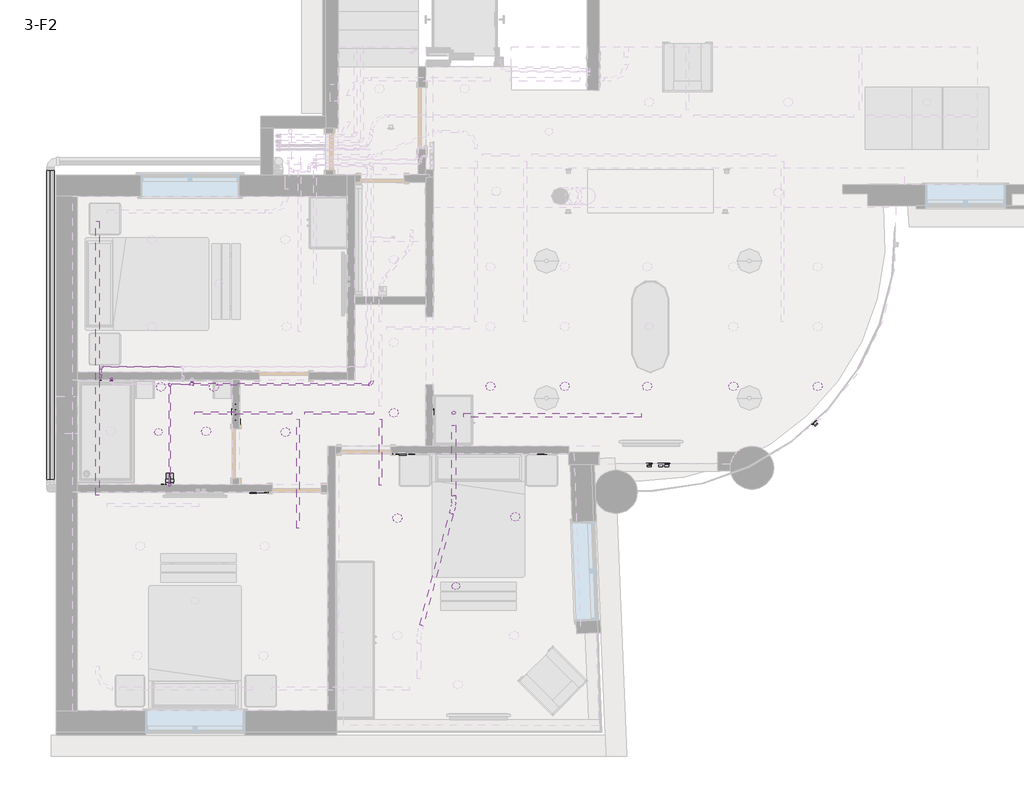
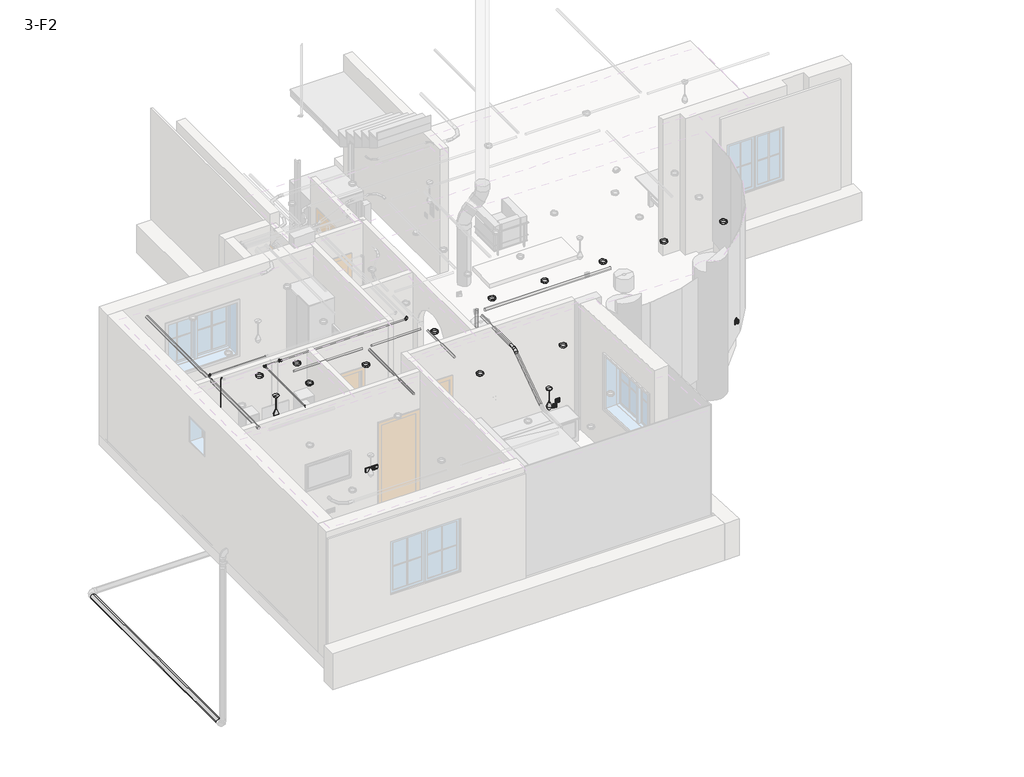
# One storey, part 6 of 12: 14 light fixtures, 12 pipe fittings, 12 pipe segments, 9 cable carrier segments, 8 proxies, 8 switching devices, 3 electric appliances, 1 cable carrier fitting.
"""IFC4 building model written with IfcOpenShell, lengths in millimetres."""

from ifc_helpers import new_model, si_unit, point, frame, frame_2d, origin, place, context, project, spatial, circle_curve, trimmed, segment, composite_curve, outline, extrude, transform, mapped, element, save
from ifc_brep_helpers import plane_surface, cylinder_surface, advanced_brep
from components import m_thermostat_standard_b920d14f, wall_mounted_socket_ups_wall_mounted_socket_ups_4524048d, m_conduit_elbow_aluminum_standard_1407c279, wall_mounted_data_socket_wall_mounted_data_socket_ap_474314e8, m_downlight_recessed_can_152mm_incandescent_120v_1ee42939, m_pendant_lamp_art_glass_led_standard_2036dae1, m_bend_pvc_sch_40_dwv_standard_1fb0f857, m_bend_pvc_sch_40_dwv_standard_738aab8b, m_bend_pvc_sch_40_dwv_standard_b153bf5a, m_bend_pvc_sch_40_dwv_standard_42e46e6b, m_tee_reducing_sanitary_pvc_sch_40_dwv_standard_53539b48, m_tee_reducing_sanitary_pvc_sch_40_dwv_standard_3942c6c6, switching_device_8f59fbb7, switching_device_ab05ab5c

model = new_model("IFC4")

# Units and contexts
model_context = context("Model", 3, world=origin())
ifc_project = project(units=[si_unit("LENGTHUNIT", "METRE", prefix="MILLI")], contexts=[model_context])

# Site, building, storey
site = spatial("IfcSite", under=ifc_project)
building = spatial("IfcBuilding", under=site)
storey = spatial("IfcBuildingStorey", under=building, Name="3-F2", Elevation=6550.0)

# Proxies
placement = place(None, origin())
m_thermostat_standard_shape = m_thermostat_standard_b920d14f(model_context)
element("IfcBuildingElementProxy", 1, Name="M_Thermostat : Standard", ObjectType="M_Thermostat : Standard", at=placement, inside=storey, context=model_context, shape_type="MappedRepresentation", body=[
    mapped(m_thermostat_standard_shape, transform((-6229.7814219, -1799.8724951, 7750.0), x_axis=(1.0, 0.0, 0.0), y_axis=(0.0, 0.0, 1.0), z_axis=(0.0, -1.0, 0.0))),
])
element("IfcBuildingElementProxy", 2, Name="M_Thermostat : Standard", ObjectType="M_Thermostat : Standard", at=placement, inside=storey, context=model_context, shape_type="MappedRepresentation", body=[
    mapped(m_thermostat_standard_shape, transform((-3811.7631263, -1185.6632352, 7750.0), x_axis=(1.0, 0.0, 0.0), y_axis=(0.0, 0.0, 1.0), z_axis=(0.0, -1.0, 0.0))),
])
wall_mounted_socket_ups_wall_mounted_socket_ups_shape = wall_mounted_socket_ups_wall_mounted_socket_ups_4524048d(model_context)
element("IfcBuildingElementProxy", 3, Name="WALL MOUNTED SOCKET UPS : WALL MOUNTED SOCKET UPS", ObjectType="WALL MOUNTED SOCKET UPS : WALL MOUNTED SOCKET UPS", at=placement, inside=storey, context=model_context, shape_type="MappedRepresentation", body=[
    mapped(wall_mounted_socket_ups_wall_mounted_socket_ups_shape, transform((-9147.4765921, 418.2189843, 7350.0), x_axis=(0.0, 1.0, 0.0), y_axis=(0.0, 0.0, 1.0), z_axis=(1.0, 0.0, 0.0))),
])
element("IfcBuildingElementProxy", 4, Name="WALL MOUNTED SOCKET UPS : WALL MOUNTED SOCKET UPS", ObjectType="WALL MOUNTED SOCKET UPS : WALL MOUNTED SOCKET UPS", at=placement, inside=storey, context=model_context, shape_type="MappedRepresentation", body=[
    mapped(wall_mounted_socket_ups_wall_mounted_socket_ups_shape, transform((2852.8377747, -681.9672351, 7430.0), x_axis=(-0.7396589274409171, -0.6729819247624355, 0.0), y_axis=(0.0, 0.0, 1.0000000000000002), z_axis=(-0.6729819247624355, 0.7396589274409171, 0.0))),
])
element("IfcBuildingElementProxy", 5, Name="WALL MOUNTED SOCKET UPS : WALL MOUNTED SOCKET UPS", ObjectType="WALL MOUNTED SOCKET UPS : WALL MOUNTED SOCKET UPS", at=placement, inside=storey, context=model_context, shape_type="MappedRepresentation", body=[
    mapped(wall_mounted_socket_ups_wall_mounted_socket_ups_shape, transform((-3662.3482991, -1177.1632352, 7350.0), x_axis=(1.0, 0.0, 0.0), y_axis=(0.0, 0.0, 1.0), z_axis=(0.0, -1.0, 0.0))),
])
element("IfcBuildingElementProxy", 6, Name="WALL MOUNTED SOCKET UPS : WALL MOUNTED SOCKET UPS", ObjectType="WALL MOUNTED SOCKET UPS : WALL MOUNTED SOCKET UPS", at=placement, inside=storey, context=model_context, shape_type="MappedRepresentation", body=[
    mapped(wall_mounted_socket_ups_wall_mounted_socket_ups_shape, transform((-1527.3482991, -1177.1632352, 7350.0), x_axis=(1.0, 0.0, 0.0), y_axis=(0.0, 0.0, 1.0), z_axis=(0.0, -1.0, 0.0))),
])
element("IfcBuildingElementProxy", 7, Name="WALL MOUNTED SOCKET UPS : WALL MOUNTED SOCKET UPS", ObjectType="WALL MOUNTED SOCKET UPS : WALL MOUNTED SOCKET UPS", at=placement, inside=storey, context=model_context, shape_type="MappedRepresentation", body=[
    mapped(wall_mounted_socket_ups_wall_mounted_socket_ups_shape, transform((-3317.6151583, -499.8724952, 7000.0), x_axis=(0.0, 1.0, 0.0), y_axis=(0.0, 0.0, 1.0), z_axis=(1.0, 0.0, 0.0))),
])
element("IfcBuildingElementProxy", 8, Name="WALL MOUNTED SOCKET UPS : WALL MOUNTED SOCKET UPS", ObjectType="WALL MOUNTED SOCKET UPS : WALL MOUNTED SOCKET UPS", at=placement, inside=storey, context=model_context, shape_type="MappedRepresentation", body=[
    mapped(wall_mounted_socket_ups_wall_mounted_socket_ups_shape, transform((178.5234079, -1340.2773764, 7000.0), x_axis=(-1.0, 0.0, 0.0), y_axis=(0.0, 0.0, 1.0), z_axis=(0.0, 1.0, 0.0))),
])

# Cable carrier fitting
m_conduit_elbow_aluminum_standard_shape = m_conduit_elbow_aluminum_standard_1407c279(model_context)
element("IfcCableCarrierFitting", 9, ObjectType="M_Conduit Elbow - Aluminum : Standard", at=placement, inside=storey, context=model_context, shape_type="MappedRepresentation", body=[
    mapped(m_conduit_elbow_aluminum_standard_shape, transform((-2985.4457195, -2009.1020984, 9619.835), x_axis=(0.2588190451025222, 0.965925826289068, 0.0), y_axis=(-0.965925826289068, 0.2588190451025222, 0.0), z_axis=(0.0, 0.0, 1.0))),
])

# Cable carrier segments
element("IfcCableCarrierSegment", 10, ObjectType="Power", at=placement, inside=storey, context=model_context, shape_type="SweptSolid", body=[
    extrude(outline(composite_curve([segment(trimmed(circle_curve(frame_2d((9619.835, -2985.4457195)), 30.165), [point((9619.835, -3015.6107195))], [point((9589.67, -2985.4457195))], False, "CARTESIAN"), True, "CONTINUOUS"), segment(trimmed(circle_curve(frame_2d((9619.835, -2985.4457195)), 30.165), [point((9589.67, -2985.4457195))], [point((9619.835, -2955.2807195))], False, "CARTESIAN"), True, "CONTINUOUS"), segment(trimmed(circle_curve(frame_2d((9619.835, -2985.4457195)), 30.165), [point((9619.835, -2955.2807195))], [point((9650.0, -2985.4457195))], False, "CARTESIAN"), True, "CONTINUOUS"), segment(trimmed(circle_curve(frame_2d((9619.835, -2985.4457195)), 30.165), [point((9650.0, -2985.4457195))], [point((9619.835, -3015.6107195))], False, "CARTESIAN"), True, "CONTINUOUS")], self_intersect=False)), frame((0.0, -1863.0343507, 0.0), z_axis=(0.0, 1.0, 0.0), x_axis=(0.0, 0.0, 1.0)), (0.0, 0.0, 1.0), 1146.3372428),
])
element("IfcCableCarrierSegment", 11, ObjectType="Power", at=placement, inside=storey, context=model_context, shape_type="SweptSolid", body=[
    extrude(outline(composite_curve([segment(trimmed(circle_curve(frame_2d((-557.6971079, 9619.835)), 30.165), [point((-587.8621079, 9619.835))], [point((-557.6971079, 9650.0))], False, "CARTESIAN"), True, "CONTINUOUS"), segment(trimmed(circle_curve(frame_2d((-557.6971079, 9619.835)), 30.165), [point((-557.6971079, 9650.0))], [point((-527.5321079, 9619.835))], False, "CARTESIAN"), True, "CONTINUOUS"), segment(trimmed(circle_curve(frame_2d((-557.6971079, 9619.835)), 30.165), [point((-527.5321079, 9619.835))], [point((-557.6971079, 9589.67))], False, "CARTESIAN"), True, "CONTINUOUS"), segment(trimmed(circle_curve(frame_2d((-557.6971079, 9619.835)), 30.165), [point((-557.6971079, 9589.67))], [point((-587.8621079, 9619.835))], False, "CARTESIAN"), True, "CONTINUOUS")], self_intersect=False)), frame((-2826.4457195, 0.0, 0.0), z_axis=(1.0, 0.0, 0.0), x_axis=(0.0, 1.0, 0.0)), (0.0, 0.0, 1.0), 2877.6250132),
])
element("IfcCableCarrierSegment", 12, ObjectType="Power", at=placement, inside=storey, context=model_context, shape_type="SweptSolid", body=[
    extrude(outline(composite_curve([segment(trimmed(circle_curve(frame_2d((9619.835, -8749.7814219)), 30.165), [point((9619.835, -8779.9464219))], [point((9589.67, -8749.7814219))], False, "CARTESIAN"), True, "CONTINUOUS"), segment(trimmed(circle_curve(frame_2d((9619.835, -8749.7814219)), 30.165), [point((9589.67, -8749.7814219))], [point((9619.835, -8719.6164219))], False, "CARTESIAN"), True, "CONTINUOUS"), segment(trimmed(circle_curve(frame_2d((9619.835, -8749.7814219)), 30.165), [point((9619.835, -8719.6164219))], [point((9650.0, -8749.7814219))], False, "CARTESIAN"), True, "CONTINUOUS"), segment(trimmed(circle_curve(frame_2d((9619.835, -8749.7814219)), 30.165), [point((9650.0, -8749.7814219))], [point((9619.835, -8779.9464219))], False, "CARTESIAN"), True, "CONTINUOUS")], self_intersect=False)), frame((0.0, -1850.1020984, 0.0), z_axis=(0.0, 1.0, 0.0), x_axis=(0.0, 0.0, 1.0)), (0.0, 0.0, 1.0), 4431.531237),
])
element("IfcCableCarrierSegment", 13, ObjectType="Power", at=placement, inside=storey, context=model_context, shape_type="SweptSolid", body=[
    extrude(outline(composite_curve([segment(trimmed(circle_curve(frame_2d((0.0, -30.165)), 30.165), [point((-30.165, -30.1648598))], [point((0.0001403, 0.0))], False, "CARTESIAN"), True, "CONTINUOUS"), segment(trimmed(circle_curve(frame_2d((0.0, -30.165)), 30.165), [point((0.0001403, 0.0))], [point((30.165, -30.1651402))], False, "CARTESIAN"), True, "CONTINUOUS"), segment(trimmed(circle_curve(frame_2d((0.0, -30.165)), 30.165), [point((30.165, -30.1651402))], [point((-0.0001402, -60.33))], False, "CARTESIAN"), True, "CONTINUOUS"), segment(trimmed(circle_curve(frame_2d((0.0, -30.165)), 30.165), [point((-0.0001402, -60.33))], [point((-30.165, -30.1648598))], False, "CARTESIAN"), True, "CONTINUOUS")], self_intersect=False)), frame((-3507.6406046, -3957.959399, 9589.6375339), z_axis=(0.2588190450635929, 0.9659258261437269, 1.734729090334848e-05), x_axis=(0.9659258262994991, -0.2588190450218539, -4.64819258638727e-06)), (0.0, 0.0, 1.0), 1871.5383558),
])
element("IfcCableCarrierSegment", 14, ObjectType="Power", at=placement, inside=storey, context=model_context, shape_type="SweptSolid", body=[
    extrude(outline(composite_curve([segment(trimmed(circle_curve(frame_2d((-518.5178652, 9630.825)), 21.08), [point((-497.4378652, 9630.825))], [point((-518.5178652, 9609.745))], False, "CARTESIAN"), True, "CONTINUOUS"), segment(trimmed(circle_curve(frame_2d((-518.5178652, 9630.825)), 21.08), [point((-518.5178652, 9609.745))], [point((-539.5978652, 9630.825))], False, "CARTESIAN"), True, "CONTINUOUS"), segment(trimmed(circle_curve(frame_2d((-518.5178652, 9630.825)), 21.08), [point((-539.5978652, 9630.825))], [point((-518.5178652, 9651.905))], False, "CARTESIAN"), True, "CONTINUOUS"), segment(trimmed(circle_curve(frame_2d((-518.5178652, 9630.825)), 21.08), [point((-518.5178652, 9651.905))], [point((-497.4378652, 9630.825))], False, "CARTESIAN"), True, "CONTINUOUS")], self_intersect=False)), frame((-7176.5261339, 0.0, 0.0), z_axis=(1.0, 0.0, 0.0), x_axis=(0.0, 1.0, 0.0)), (0.0, 0.0, 1.0), 1566.0804143),
])
element("IfcCableCarrierSegment", 15, ObjectType="Power", at=placement, inside=storey, context=model_context, shape_type="SweptSolid", body=[
    extrude(outline(composite_curve([segment(trimmed(circle_curve(frame_2d((-518.5178652, 9630.825)), 21.08), [point((-539.5978652, 9630.825))], [point((-518.5178652, 9651.905))], False, "CARTESIAN"), True, "CONTINUOUS"), segment(trimmed(circle_curve(frame_2d((-518.5178652, 9630.825)), 21.08), [point((-518.5178652, 9651.905))], [point((-497.4378652, 9630.825))], False, "CARTESIAN"), True, "CONTINUOUS"), segment(trimmed(circle_curve(frame_2d((-518.5178652, 9630.825)), 21.08), [point((-497.4378652, 9630.825))], [point((-518.5178652, 9609.745))], False, "CARTESIAN"), True, "CONTINUOUS"), segment(trimmed(circle_curve(frame_2d((-518.5178652, 9630.825)), 21.08), [point((-518.5178652, 9609.745))], [point((-539.5978652, 9630.825))], False, "CARTESIAN"), True, "CONTINUOUS")], self_intersect=False)), frame((-5400.4457195, 0.0, 0.0), z_axis=(1.0, 0.0, 0.0), x_axis=(0.0, 1.0, 0.0)), (0.0, 0.0, 1.0), 1123.9195857),
])
element("IfcCableCarrierSegment", 16, ObjectType="Power", at=placement, inside=storey, context=model_context, shape_type="SweptSolid", body=[
    extrude(outline(composite_curve([segment(trimmed(circle_curve(frame_2d((9630.825, -4171.5261339)), 21.08), [point((9630.825, -4192.6061339))], [point((9609.745, -4171.5261339))], False, "CARTESIAN"), True, "CONTINUOUS"), segment(trimmed(circle_curve(frame_2d((9630.825, -4171.5261339)), 21.08), [point((9609.745, -4171.5261339))], [point((9630.825, -4150.4461339))], False, "CARTESIAN"), True, "CONTINUOUS"), segment(trimmed(circle_curve(frame_2d((9630.825, -4171.5261339)), 21.08), [point((9630.825, -4150.4461339))], [point((9651.905, -4171.5261339))], False, "CARTESIAN"), True, "CONTINUOUS"), segment(trimmed(circle_curve(frame_2d((9630.825, -4171.5261339)), 21.08), [point((9651.905, -4171.5261339))], [point((9630.825, -4192.6061339))], False, "CARTESIAN"), True, "CONTINUOUS")], self_intersect=False)), frame((0.0, -1694.8724951, 0.0), z_axis=(0.0, 1.0, 0.0), x_axis=(0.0, 0.0, 1.0)), (0.0, 0.0, 1.0), 1071.3546299),
])
element("IfcCableCarrierSegment", 17, ObjectType="Power", at=placement, inside=storey, context=model_context, shape_type="SweptSolid", body=[
    extrude(outline(composite_curve([segment(trimmed(circle_curve(frame_2d((9630.825, -5505.4457195)), 21.08), [point((9630.825, -5526.5257195))], [point((9609.745, -5505.4457195))], False, "CARTESIAN"), True, "CONTINUOUS"), segment(trimmed(circle_curve(frame_2d((9630.825, -5505.4457195)), 21.08), [point((9609.745, -5505.4457195))], [point((9630.825, -5484.3657195))], False, "CARTESIAN"), True, "CONTINUOUS"), segment(trimmed(circle_curve(frame_2d((9630.825, -5505.4457195)), 21.08), [point((9630.825, -5484.3657195))], [point((9651.905, -5505.4457195))], False, "CARTESIAN"), True, "CONTINUOUS"), segment(trimmed(circle_curve(frame_2d((9630.825, -5505.4457195)), 21.08), [point((9651.905, -5505.4457195))], [point((9630.825, -5526.5257195))], False, "CARTESIAN"), True, "CONTINUOUS")], self_intersect=False)), frame((0.0, -2387.4545156, 0.0), z_axis=(0.0, 1.0, 0.0), x_axis=(0.0, 0.0, 1.0)), (0.0, 0.0, 1.0), 1763.9366504),
])
element("IfcCableCarrierSegment", 18, ObjectType="Power", at=placement, inside=storey, context=model_context, shape_type="SweptSolid", body=[
    extrude(outline(composite_curve([segment(trimmed(circle_curve(frame_2d((-2985.4457195, -518.5178652)), 30.165), [point((-2955.2807195, -518.5178652))], [point((-2985.4457195, -548.6828652))], False, "CARTESIAN"), True, "CONTINUOUS"), segment(trimmed(circle_curve(frame_2d((-2985.4457195, -518.5178652)), 30.165), [point((-2985.4457195, -548.6828652))], [point((-3015.6107195, -518.5178652))], False, "CARTESIAN"), True, "CONTINUOUS"), segment(trimmed(circle_curve(frame_2d((-2985.4457195, -518.5178652)), 30.165), [point((-3015.6107195, -518.5178652))], [point((-2985.4457195, -488.3528652))], False, "CARTESIAN"), True, "CONTINUOUS"), segment(trimmed(circle_curve(frame_2d((-2985.4457195, -518.5178652)), 30.165), [point((-2985.4457195, -488.3528652))], [point((-2955.2807195, -518.5178652))], False, "CARTESIAN"), True, "CONTINUOUS")], self_intersect=False)), frame((0.0, 0.0, 8450.0), z_axis=(0.0, 0.0, 1.0), x_axis=(1.0, 0.0, 0.0)), (0.0, 0.0, 1.0), 1200.0),
])

# Electric appliances
wall_mounted_data_socket_wall_mounted_data_socket_ap_shape = wall_mounted_data_socket_wall_mounted_data_socket_ap_474314e8(model_context)
element("IfcElectricAppliance", 19, ObjectType="WALL MOUNTED DATA SOCKET : WALL MOUNTED DATA SOCKET AP", at=placement, inside=storey, context=model_context, shape_type="MappedRepresentation", body=[
    mapped(wall_mounted_data_socket_wall_mounted_data_socket_ap_shape, transform((366.5234079, -1340.2773764, 7000.0), x_axis=(-1.0, 0.0, 0.0), y_axis=(0.0, 0.0, 1.0), z_axis=(0.0, 1.0, 0.0))),
])
element("IfcElectricAppliance", 20, ObjectType="WALL MOUNTED DATA SOCKET : WALL MOUNTED DATA SOCKET AP", at=placement, inside=storey, context=model_context, shape_type="MappedRepresentation", body=[
    mapped(wall_mounted_data_socket_wall_mounted_data_socket_ap_shape, transform((464.0164993, -1340.2773764, 7000.0), x_axis=(-1.0, 0.0, 0.0), y_axis=(0.0, 0.0, 1.0), z_axis=(0.0, 1.0, 0.0))),
])
element("IfcElectricAppliance", 21, ObjectType="WALL MOUNTED DATA SOCKET : WALL MOUNTED DATA SOCKET AP", at=placement, inside=storey, context=model_context, shape_type="MappedRepresentation", body=[
    mapped(wall_mounted_data_socket_wall_mounted_data_socket_ap_shape, transform((-1587.3482991, -1177.1632352, 7250.0), x_axis=(1.0, 0.0, 0.0), y_axis=(0.0, 0.0, 1.0), z_axis=(0.0, -1.0, 0.0))),
])

# Light fixtures
m_downlight_recessed_can_152mm_incandescent_120v_shape = m_downlight_recessed_can_152mm_incandescent_120v_1ee42939(model_context)
element("IfcLightFixture", 22, ObjectType="M_Downlight - Recessed Can : 152mm Incandescent - 120V", at=placement, inside=storey, context=model_context, shape_type="MappedRepresentation", body=[
    mapped(m_downlight_recessed_can_152mm_incandescent_120v_shape, transform((-6866.9658403, -99.8724952, 6935.4), x_axis=(-1.0, 0.0, 0.0), y_axis=(0.0, -1.0, 0.0), z_axis=(0.0, 0.0, 1.0))),
])
element("IfcLightFixture", 23, ObjectType="M_Downlight - Recessed Can : 152mm Incandescent - 120V", at=placement, inside=storey, context=model_context, shape_type="MappedRepresentation", body=[
    mapped(m_downlight_recessed_can_152mm_incandescent_120v_shape, transform((-7722.8155815, -99.8724952, 6935.4), x_axis=(1.0, 0.0, 0.0), y_axis=(0.0, 1.0, 0.0), z_axis=(0.0, 0.0, 1.0))),
])
element("IfcLightFixture", 24, ObjectType="M_Downlight - Recessed Can : 203mm Incandescent - 277V", at=placement, inside=storey, context=model_context, shape_type="MappedRepresentation", body=[
    mapped(m_downlight_recessed_can_152mm_incandescent_120v_shape, transform((2906.3219274, -89.7180065, 6935.4), x_axis=(1.0, 0.0, 0.0), y_axis=(0.0, 1.0, 0.0), z_axis=(0.0, 0.0, 1.0))),
])
element("IfcLightFixture", 25, ObjectType="M_Downlight - Recessed Can : 203mm Incandescent - 277V", at=placement, inside=storey, context=model_context, shape_type="MappedRepresentation", body=[
    mapped(m_downlight_recessed_can_152mm_incandescent_120v_shape, transform((-2390.7208752, -89.7180065, 6935.4), x_axis=(1.0, 0.0, 0.0), y_axis=(0.0, 1.0, 0.0), z_axis=(0.0, 0.0, 1.0))),
])
element("IfcLightFixture", 26, ObjectType="M_Downlight - Recessed Can : 203mm Incandescent - 277V", at=placement, inside=storey, context=model_context, shape_type="MappedRepresentation", body=[
    mapped(m_downlight_recessed_can_152mm_incandescent_120v_shape, transform((147.3848417, -89.7180065, 6935.4), x_axis=(1.0, 0.0, 0.0), y_axis=(0.0, 1.0, 0.0), z_axis=(0.0, 0.0, 1.0))),
])
element("IfcLightFixture", 27, ObjectType="M_Downlight - Recessed Can : 203mm Incandescent - 277V", at=placement, inside=storey, context=model_context, shape_type="MappedRepresentation", body=[
    mapped(m_downlight_recessed_can_152mm_incandescent_120v_shape, transform((-3896.69683, -2222.3889317, 6935.4), x_axis=(1.0, 0.0, 0.0), y_axis=(0.0, 1.0, 0.0), z_axis=(0.0, 0.0, 1.0))),
])
element("IfcLightFixture", 28, ObjectType="M_Downlight - Recessed Can : 203mm Incandescent - 277V", at=placement, inside=storey, context=model_context, shape_type="MappedRepresentation", body=[
    mapped(m_downlight_recessed_can_152mm_incandescent_120v_shape, transform((-1987.6481198, -2202.3889317, 6935.4), x_axis=(1.0, 0.0, 0.0), y_axis=(0.0, 1.0, 0.0), z_axis=(0.0, 0.0, 1.0))),
])
element("IfcLightFixture", 29, ObjectType="M_Downlight - Recessed Can : 203mm Incandescent - 277V", at=placement, inside=storey, context=model_context, shape_type="MappedRepresentation", body=[
    mapped(m_downlight_recessed_can_152mm_incandescent_120v_shape, transform((-5707.6135707, -829.8724951, 6935.4), x_axis=(1.0, 0.0, 0.0), y_axis=(0.0, 1.0, 0.0), z_axis=(0.0, 0.0, 1.0))),
])
element("IfcLightFixture", 30, ObjectType="M_Downlight - Recessed Can : 203mm Incandescent - 277V", at=placement, inside=storey, context=model_context, shape_type="MappedRepresentation", body=[
    mapped(m_downlight_recessed_can_152mm_incandescent_120v_shape, transform((-3954.5706461, -518.5178652, 6935.4), x_axis=(1.0, 0.0, 0.0), y_axis=(0.0, 1.0, 0.0), z_axis=(0.0, 0.0, 1.0))),
])
element("IfcLightFixture", 31, ObjectType="M_Downlight - Recessed Can : 203mm Incandescent - 277V", at=placement, inside=storey, context=model_context, shape_type="MappedRepresentation", body=[
    mapped(m_downlight_recessed_can_152mm_incandescent_120v_shape, transform((1542.0612267, -89.7180065, 6935.4), x_axis=(1.0, 0.0, 0.0), y_axis=(0.0, 1.0, 0.0), z_axis=(0.0, 0.0, 1.0))),
])
element("IfcLightFixture", 32, ObjectType="M_Downlight - Recessed Can : 203mm Incandescent - 277V", at=placement, inside=storey, context=model_context, shape_type="MappedRepresentation", body=[
    mapped(m_downlight_recessed_can_152mm_incandescent_120v_shape, transform((-6992.9330801, -817.1632352, 6935.4), x_axis=(-1.0, 0.0, 0.0), y_axis=(0.0, -1.0, 0.0), z_axis=(0.0, 0.0, 1.0))),
])
element("IfcLightFixture", 33, ObjectType="M_Downlight - Recessed Can : 203mm Incandescent - 277V", at=placement, inside=storey, context=model_context, shape_type="MappedRepresentation", body=[
    mapped(m_downlight_recessed_can_152mm_incandescent_120v_shape, transform((-1186.4601746, -89.7180065, 6935.4), x_axis=(-1.0, 0.0, 0.0), y_axis=(0.0, -1.0, 0.0), z_axis=(0.0, 0.0, 1.0))),
])
m_pendant_lamp_art_glass_led_standard_shape = m_pendant_lamp_art_glass_led_standard_2036dae1(model_context)
element("IfcLightFixture", 34, ObjectType="M_Pendant Lamp - Art Glass - LED : Standard", at=placement, inside=storey, context=model_context, shape_type="MappedRepresentation", body=[
    mapped(m_pendant_lamp_art_glass_led_standard_shape, transform((-2950.9982578, -3323.7401509, 9450.0), x_axis=(0.999997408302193, -0.002276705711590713, 0.0), y_axis=(-0.002276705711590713, -0.999997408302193, 0.0), z_axis=(0.0, 0.0, -1.0))),
])
element("IfcLightFixture", 35, ObjectType="M_Pendant Lamp - Art Glass - LED : Standard", at=placement, inside=storey, context=model_context, shape_type="MappedRepresentation", body=[
    mapped(m_pendant_lamp_art_glass_led_standard_shape, transform((-7765.0542988, -829.8724951, 9450.0), x_axis=(1.0, 0.0, 0.0), y_axis=(0.0, -1.0, 0.0), z_axis=(0.0, 0.0, -1.0))),
])

# Pipe fittings
m_bend_pvc_sch_40_dwv_standard_shape = m_bend_pvc_sch_40_dwv_standard_1fb0f857(model_context)
element("IfcPipeFitting", 36, ObjectType="M_Bend - PVC - Sch 40 - DWV : Standard", at=placement, inside=storey, context=model_context, shape_type="MappedRepresentation", body=[
    mapped(m_bend_pvc_sch_40_dwv_standard_shape, transform((-7580.0, -1739.8656791, 6819.0), x_axis=(1.0, 0.0, 0.0), y_axis=(0.0, 0.9999999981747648, -6.041912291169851e-05), z_axis=(0.0, 6.041912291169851e-05, 0.9999999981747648))),
])
m_bend_pvc_sch_40_dwv_standard_2_shape = m_bend_pvc_sch_40_dwv_standard_738aab8b(model_context)
element("IfcPipeFitting", 37, ObjectType="M_Bend - PVC - Sch 40 - DWV : Standard", at=placement, inside=storey, context=model_context, shape_type="MappedRepresentation", body=[
    mapped(m_bend_pvc_sch_40_dwv_standard_2_shape, transform((-9149.8907104, 80.1274961, 6537.498459), x_axis=(-0.999999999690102, 0.0, -2.4895703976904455e-05), y_axis=(-2.7731194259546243e-11, -0.9999999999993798, 1.1138947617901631e-06), z_axis=(-2.489570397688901e-05, 1.1138947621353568e-06, 0.9999999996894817))),
])
m_bend_pvc_sch_40_dwv_standard_3_shape = m_bend_pvc_sch_40_dwv_standard_b153bf5a(model_context)
element("IfcPipeFitting", 38, ObjectType="M_Bend - PVC - Sch 40 - DWV : Standard", at=placement, inside=storey, context=model_context, shape_type="MappedRepresentation", body=[
    mapped(m_bend_pvc_sch_40_dwv_standard_3_shape, transform((-4306.5261339, -55.6316453, 9620.0), x_axis=(1.0, 0.0, 0.0), y_axis=(0.0, 1.0, 0.0), z_axis=(0.0, 0.0, 1.0))),
])
m_bend_pvc_sch_40_dwv_standard_4_shape = m_bend_pvc_sch_40_dwv_standard_42e46e6b(model_context)
element("IfcPipeFitting", 39, ObjectType="M_Bend - PVC - Sch 40 - DWV : Standard", at=placement, inside=storey, context=model_context, shape_type="MappedRepresentation", body=[
    mapped(m_bend_pvc_sch_40_dwv_standard_4_shape, transform((-7580.0, -1696.3444327, 7000.0), x_axis=(0.0, 0.0, -1.0), y_axis=(0.0, 1.0, 0.0), z_axis=(1.0, 0.0, 0.0))),
])
element("IfcPipeFitting", 40, ObjectType="M_Bend - PVC - Sch 40 - DWV : Standard", at=placement, inside=storey, context=model_context, shape_type="MappedRepresentation", body=[
    mapped(m_bend_pvc_sch_40_dwv_standard_4_shape, transform((-8701.0626484, 227.8367648, 9620.0), x_axis=(-1.0, 0.0, 0.0), y_axis=(0.0, -1.0, 0.0), z_axis=(0.0, 0.0, 1.0))),
])
element("IfcPipeFitting", 41, ObjectType="M_Bend - PVC - Sch 40 - DWV : Standard", at=placement, inside=storey, context=model_context, shape_type="MappedRepresentation", body=[
    mapped(m_bend_pvc_sch_40_dwv_standard_4_shape, transform((-8701.0626484, 52.8367648, 9620.0), x_axis=(0.0, -1.0, 0.0), y_axis=(0.0, 0.0, -1.0), z_axis=(1.0, 0.0, 0.0))),
])
element("IfcPipeFitting", 42, ObjectType="M_Bend - PVC - Sch 40 - DWV : Standard", at=placement, inside=storey, context=model_context, shape_type="MappedRepresentation", body=[
    mapped(m_bend_pvc_sch_40_dwv_standard_4_shape, transform((-8524.8907109, 35.1275048, 9620.0), x_axis=(0.0, 1.0, 0.0), y_axis=(0.0, 0.0, -1.0), z_axis=(-1.0, 0.0, 0.0))),
])
element("IfcPipeFitting", 43, ObjectType="M_Bend - PVC - Sch 40 - DWV : Standard", at=placement, inside=storey, context=model_context, shape_type="MappedRepresentation", body=[
    mapped(m_bend_pvc_sch_40_dwv_standard_4_shape, transform((-8524.8907109, 35.1275048, 7350.0), x_axis=(0.0, 0.0, -1.0), y_axis=(0.0, -1.0, 0.0), z_axis=(-1.0, 0.0, 0.0))),
])
element("IfcPipeFitting", 44, ObjectType="M_Bend - PVC - Sch 40 - DWV : Standard", at=placement, inside=storey, context=model_context, shape_type="MappedRepresentation", body=[
    mapped(m_bend_pvc_sch_40_dwv_standard_4_shape, transform((-7580.0, -1696.3444327, 9620.0), x_axis=(0.0, 0.0, 1.0), y_axis=(0.0, 1.0, 0.0), z_axis=(-1.0, 0.0, 0.0))),
])
element("IfcPipeFitting", 45, ObjectType="M_Bend - PVC - Sch 40 - DWV : Standard", at=placement, inside=storey, context=model_context, shape_type="MappedRepresentation", body=[
    mapped(m_bend_pvc_sch_40_dwv_standard_4_shape, transform((-8701.0626484, 52.8367648, 7350.0), x_axis=(0.0, 0.0, -1.0), y_axis=(0.0, -1.0, 0.0), z_axis=(-1.0, 0.0, 0.0))),
])
m_tee_reducing_sanitary_pvc_sch_40_dwv_standard_shape = m_tee_reducing_sanitary_pvc_sch_40_dwv_standard_53539b48(model_context)
element("IfcPipeFitting", 46, ObjectType="M_Tee Reducing Sanitary - PVC - Sch 40 - DWV : Standard", at=placement, inside=storey, context=model_context, shape_type="MappedRepresentation", body=[
    mapped(m_tee_reducing_sanitary_pvc_sch_40_dwv_standard_shape, transform((-7580.0, -55.6316453, 9620.0), x_axis=(-1.0, 0.0, 0.0), y_axis=(0.0, 1.0, 0.0), z_axis=(0.0, 0.0, -1.0))),
])
m_tee_reducing_sanitary_pvc_sch_40_dwv_standard_2_shape = m_tee_reducing_sanitary_pvc_sch_40_dwv_standard_3942c6c6(model_context)
element("IfcPipeFitting", 47, ObjectType="M_Tee Reducing Sanitary - PVC - Sch 40 - DWV : Standard", at=placement, inside=storey, context=model_context, shape_type="MappedRepresentation", body=[
    mapped(m_tee_reducing_sanitary_pvc_sch_40_dwv_standard_2_shape, transform((-7219.8907109, -55.6316453, 9620.0), x_axis=(1.0, 0.0, 0.0), y_axis=(0.0, -1.0, 0.0), z_axis=(0.0, 0.0, -1.0))),
])

# Pipe segments
element("IfcPipeSegment", 48, ObjectType="PVC - DWV", at=placement, inside=storey, context=model_context, shape_type="AdvancedBrep", body=[
    advanced_brep(
    [(-9454.5499979, -1596.9906791, 2621.4), (-9511.6999979, -1596.9906791, 2678.55), (-9568.8499979, -1596.9906791, 2621.4), (-9511.6999979, -1596.9906791, 2564.25), (-9454.5499973, 3409.5131129, 2621.4), (-9511.6999973, 3409.5131129, 2564.25), (-9568.8499973, 3409.5131129, 2621.4), (-9511.6999973, 3409.5131129, 2678.55)],
    [
        (0, 1, circle_curve(frame((-9511.6999979, -1596.9906791, 2621.4), z_axis=(0.0, -1.0, 0.0), x_axis=(1.0, 0.0, 0.0)), 57.15)),
        (1, 2, circle_curve(frame((-9511.6999979, -1596.9906791, 2621.4), z_axis=(0.0, -1.0, 0.0), x_axis=(1.0, 0.0, 0.0)), 57.15)),
        (2, 3, circle_curve(frame((-9511.6999979, -1596.9906791, 2621.4), z_axis=(0.0, -1.0, 0.0), x_axis=(1.0, 0.0, 0.0)), 57.15)),
        (3, 0, circle_curve(frame((-9511.6999979, -1596.9906791, 2621.4), z_axis=(0.0, -1.0, 0.0), x_axis=(1.0, 0.0, 0.0)), 57.15)),
        (4, 5, circle_curve(frame((-9511.6999979, 3409.5131129, 2621.4), z_axis=(0.0, 1.0, 0.0), x_axis=(1.0, 0.0, 0.0)), 57.1500006)),
        (5, 6, circle_curve(frame((-9511.6999979, 3409.5131129, 2621.4), z_axis=(0.0, 1.0, 0.0), x_axis=(1.0, 0.0, 0.0)), 57.15)),
        (6, 7, circle_curve(frame((-9511.6999979, 3409.5131129, 2621.4), z_axis=(0.0, 1.0, 0.0), x_axis=(1.0, 0.0, 0.0)), 57.1499994)),
        (7, 4, circle_curve(frame((-9511.6999979, 3409.5131129, 2621.4), z_axis=(0.0, 1.0, 0.0), x_axis=(1.0, 0.0, 0.0)), 57.15)),
        (0, 4),
        (7, 1),
        (6, 2),
        (5, 3),
    ],
    [
        plane_surface(frame((-9568.8499979, -1596.9906791, 2621.4), z_axis=(-1.195156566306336e-10, -1.0, 0.0), x_axis=(0.0, 0.0, 1.0))),
        plane_surface(frame((-9568.8499973, 3409.5131129, 2621.4), z_axis=(1.1951802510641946e-10, 1.0, 0.0), x_axis=(0.0, 0.0, 1.0))),
        cylinder_surface(frame((-9511.6999979, -1596.9906791, 2621.4), z_axis=(0.0, -1.0, 0.0), x_axis=(1.0, 0.0, 0.0)), 57.15),
    ],
    [
        (0, [[1, 2, 3, 4]]),
        (1, [[5, 6, 7, 8]]),
        (2, [[-1, 9, -8, 10]]),
        (2, [[-2, -10, -7, 11]]),
        (2, [[-3, -11, -6, 12]]),
        (2, [[-4, -12, -5, -9]]),
    ],
),
])
element("IfcPipeSegment", 49, ObjectType="PVC - DWV", at=placement, inside=storey, context=model_context, shape_type="SweptSolid", body=[
    extrude(outline(composite_curve([segment(trimmed(circle_curve(frame_2d((-55.6316453, 9620.0)), 16.7005), [point((-38.9311453, 9620.0))], [point((-55.6316453, 9603.2995))], False, "CARTESIAN"), True, "CONTINUOUS"), segment(trimmed(circle_curve(frame_2d((-55.6316453, 9620.0)), 16.7005), [point((-55.6316453, 9603.2995))], [point((-72.3321453, 9620.0))], False, "CARTESIAN"), True, "CONTINUOUS"), segment(trimmed(circle_curve(frame_2d((-55.6316453, 9620.0)), 16.7005), [point((-72.3321453, 9620.0))], [point((-55.6316453, 9636.7005))], False, "CARTESIAN"), True, "CONTINUOUS"), segment(trimmed(circle_curve(frame_2d((-55.6316453, 9620.0)), 16.7005), [point((-55.6316453, 9636.7005))], [point((-38.9311453, 9620.0))], False, "CARTESIAN"), True, "CONTINUOUS")], self_intersect=False)), frame((-7193.7187734, 0.0, 0.0), z_axis=(1.0, 0.0, 0.0), x_axis=(0.0, 1.0, 0.0)), (0.0, 0.0, 1.0), 2834.578577),
])
element("IfcPipeSegment", 50, ObjectType="PVC - DWV", at=placement, inside=storey, context=model_context, shape_type="SweptSolid", body=[
    extrude(outline(composite_curve([segment(trimmed(circle_curve(frame_2d((7000.0, -7219.8907109)), 10.668), [point((7000.0, -7230.5587109))], [point((6989.332, -7219.8907109))], False, "CARTESIAN"), True, "CONTINUOUS"), segment(trimmed(circle_curve(frame_2d((7000.0, -7219.8907109)), 10.668), [point((6989.332, -7219.8907109))], [point((7000.0, -7209.2227109))], False, "CARTESIAN"), True, "CONTINUOUS"), segment(trimmed(circle_curve(frame_2d((7000.0, -7219.8907109)), 10.668), [point((7000.0, -7209.2227109))], [point((7010.668, -7219.8907109))], False, "CARTESIAN"), True, "CONTINUOUS"), segment(trimmed(circle_curve(frame_2d((7000.0, -7219.8907109)), 10.668), [point((7010.668, -7219.8907109))], [point((7000.0, -7230.5587109))], False, "CARTESIAN"), True, "CONTINUOUS")], self_intersect=False)), frame((0.0, -19.8724952, 0.0), z_axis=(0.0, 1.0, 0.0), x_axis=(0.0, 0.0, 1.0)), (0.0, 0.0, 1.0), 13.9859375),
])
element("IfcPipeSegment", 51, ObjectType="PVC - DWV", at=placement, inside=storey, context=model_context, shape_type="SweptSolid", body=[
    extrude(outline(composite_curve([segment(trimmed(circle_curve(frame_2d((9620.0, -7580.0)), 10.668), [point((9620.0, -7590.668))], [point((9609.332, -7580.0))], False, "CARTESIAN"), True, "CONTINUOUS"), segment(trimmed(circle_curve(frame_2d((9620.0, -7580.0)), 10.668), [point((9609.332, -7580.0))], [point((9620.0, -7569.332))], False, "CARTESIAN"), True, "CONTINUOUS"), segment(trimmed(circle_curve(frame_2d((9620.0, -7580.0)), 10.668), [point((9620.0, -7569.332))], [point((9630.668, -7580.0))], False, "CARTESIAN"), True, "CONTINUOUS"), segment(trimmed(circle_curve(frame_2d((9620.0, -7580.0)), 10.668), [point((9630.668, -7580.0))], [point((9620.0, -7590.668))], False, "CARTESIAN"), True, "CONTINUOUS")], self_intersect=False)), frame((0.0, -1655.3303702, 0.0), z_axis=(0.0, 1.0, 0.0), x_axis=(0.0, 0.0, 1.0)), (0.0, 0.0, 1.0), 1563.7307561),
])
element("IfcPipeSegment", 52, ObjectType="PVC - DWV", at=placement, inside=storey, context=model_context, shape_type="SweptSolid", body=[
    extrude(outline(composite_curve([segment(trimmed(circle_curve(frame_2d((227.8367648, 9620.0)), 10.668), [point((238.5047648, 9620.0))], [point((227.8367648, 9609.332))], False, "CARTESIAN"), True, "CONTINUOUS"), segment(trimmed(circle_curve(frame_2d((227.8367648, 9620.0)), 10.668), [point((227.8367648, 9609.332))], [point((217.1687648, 9620.0))], False, "CARTESIAN"), True, "CONTINUOUS"), segment(trimmed(circle_curve(frame_2d((227.8367648, 9620.0)), 10.668), [point((217.1687648, 9620.0))], [point((227.8367648, 9630.668))], False, "CARTESIAN"), True, "CONTINUOUS"), segment(trimmed(circle_curve(frame_2d((227.8367648, 9620.0)), 10.668), [point((227.8367648, 9630.668))], [point((238.5047648, 9620.0))], False, "CARTESIAN"), True, "CONTINUOUS")], self_intersect=False)), frame((-8660.0485859, 0.0, 0.0), z_axis=(1.0, 0.0, 0.0), x_axis=(0.0, 1.0, 0.0)), (0.0, 0.0, 1.0), 1268.6553375),
])
element("IfcPipeSegment", 53, ObjectType="PVC - DWV", at=placement, inside=storey, context=model_context, shape_type="SweptSolid", body=[
    extrude(outline(composite_curve([segment(trimmed(circle_curve(frame_2d((9620.0, -8701.0626484)), 10.668), [point((9620.0, -8711.7306484))], [point((9609.332, -8701.0626484))], False, "CARTESIAN"), True, "CONTINUOUS"), segment(trimmed(circle_curve(frame_2d((9620.0, -8701.0626484)), 10.668), [point((9609.332, -8701.0626484))], [point((9620.0, -8690.3946484))], False, "CARTESIAN"), True, "CONTINUOUS"), segment(trimmed(circle_curve(frame_2d((9620.0, -8701.0626484)), 10.668), [point((9620.0, -8690.3946484))], [point((9630.668, -8701.0626484))], False, "CARTESIAN"), True, "CONTINUOUS"), segment(trimmed(circle_curve(frame_2d((9620.0, -8701.0626484)), 10.668), [point((9630.668, -8701.0626484))], [point((9620.0, -8711.7306484))], False, "CARTESIAN"), True, "CONTINUOUS")], self_intersect=False)), frame((0.0, 93.8508273, 0.0), z_axis=(0.0, 1.0, 0.0), x_axis=(0.0, 0.0, 1.0)), (0.0, 0.0, 1.0), 92.971875),
])
element("IfcPipeSegment", 54, ObjectType="PVC - DWV", at=placement, inside=storey, context=model_context, shape_type="SweptSolid", body=[
    extrude(outline(composite_curve([segment(trimmed(circle_curve(frame_2d((-8701.0626484, 52.8367648)), 10.668), [point((-8711.7306484, 52.8367648))], [point((-8701.0626484, 63.5047648))], False, "CARTESIAN"), True, "CONTINUOUS"), segment(trimmed(circle_curve(frame_2d((-8701.0626484, 52.8367648)), 10.668), [point((-8701.0626484, 63.5047648))], [point((-8690.3946484, 52.8367648))], False, "CARTESIAN"), True, "CONTINUOUS"), segment(trimmed(circle_curve(frame_2d((-8701.0626484, 52.8367648)), 10.668), [point((-8690.3946484, 52.8367648))], [point((-8701.0626484, 42.1687648))], False, "CARTESIAN"), True, "CONTINUOUS"), segment(trimmed(circle_curve(frame_2d((-8701.0626484, 52.8367648)), 10.668), [point((-8701.0626484, 42.1687648))], [point((-8711.7306484, 52.8367648))], False, "CARTESIAN"), True, "CONTINUOUS")], self_intersect=False)), frame((0.0, 0.0, 7391.0140625), z_axis=(0.0, 0.0, 1.0), x_axis=(1.0, 0.0, 0.0)), (0.0, 0.0, 1.0), 2187.971875),
])
element("IfcPipeSegment", 55, ObjectType="PVC - DWV", at=placement, inside=storey, context=model_context, shape_type="SweptSolid", body=[
    extrude(outline(composite_curve([segment(trimmed(circle_curve(frame_2d((9620.0, -7219.8907109)), 10.668), [point((9620.0, -7209.2227109))], [point((9630.668, -7219.8907109))], False, "CARTESIAN"), True, "CONTINUOUS"), segment(trimmed(circle_curve(frame_2d((9620.0, -7219.8907109)), 10.668), [point((9630.668, -7219.8907109))], [point((9620.0, -7230.5587109))], False, "CARTESIAN"), True, "CONTINUOUS"), segment(trimmed(circle_curve(frame_2d((9620.0, -7219.8907109)), 10.668), [point((9620.0, -7230.5587109))], [point((9609.332, -7219.8907109))], False, "CARTESIAN"), True, "CONTINUOUS"), segment(trimmed(circle_curve(frame_2d((9620.0, -7219.8907109)), 10.668), [point((9609.332, -7219.8907109))], [point((9620.0, -7209.2227109))], False, "CARTESIAN"), True, "CONTINUOUS")], self_intersect=False)), frame((0.0, -14.3636766, 0.0), z_axis=(0.0, 1.0, 0.0), x_axis=(0.0, 0.0, 1.0)), (0.0, 0.0, 1.0), 8.4771189),
])
element("IfcPipeSegment", 56, ObjectType="PVC - DWV", at=placement, inside=storey, context=model_context, shape_type="SweptSolid", body=[
    extrude(outline(composite_curve([segment(trimmed(circle_curve(frame_2d((-8524.8907109, 35.1275048)), 10.668), [point((-8514.2227109, 35.1275048))], [point((-8524.8907109, 24.4595048))], False, "CARTESIAN"), True, "CONTINUOUS"), segment(trimmed(circle_curve(frame_2d((-8524.8907109, 35.1275048)), 10.668), [point((-8524.8907109, 24.4595048))], [point((-8535.5587109, 35.1275048))], False, "CARTESIAN"), True, "CONTINUOUS"), segment(trimmed(circle_curve(frame_2d((-8524.8907109, 35.1275048)), 10.668), [point((-8535.5587109, 35.1275048))], [point((-8524.8907109, 45.7955048))], False, "CARTESIAN"), True, "CONTINUOUS"), segment(trimmed(circle_curve(frame_2d((-8524.8907109, 35.1275048)), 10.668), [point((-8524.8907109, 45.7955048))], [point((-8514.2227109, 35.1275048))], False, "CARTESIAN"), True, "CONTINUOUS")], self_intersect=False)), frame((0.0, 0.0, 7391.0140625), z_axis=(0.0, 0.0, 1.0), x_axis=(1.0, 0.0, 0.0)), (0.0, 0.0, 1.0), 2187.971875),
])
element("IfcPipeSegment", 57, ObjectType="PVC - DWV", at=placement, inside=storey, context=model_context, shape_type="SweptSolid", body=[
    extrude(outline(composite_curve([segment(trimmed(circle_curve(frame_2d((-55.6316453, 9620.0)), 10.668), [point((-44.9636453, 9620.0))], [point((-55.6316453, 9609.332))], False, "CARTESIAN"), True, "CONTINUOUS"), segment(trimmed(circle_curve(frame_2d((-55.6316453, 9620.0)), 10.668), [point((-55.6316453, 9609.332))], [point((-66.2996453, 9620.0))], False, "CARTESIAN"), True, "CONTINUOUS"), segment(trimmed(circle_curve(frame_2d((-55.6316453, 9620.0)), 10.668), [point((-66.2996453, 9620.0))], [point((-55.6316453, 9630.668))], False, "CARTESIAN"), True, "CONTINUOUS"), segment(trimmed(circle_curve(frame_2d((-55.6316453, 9620.0)), 10.668), [point((-55.6316453, 9630.668))], [point((-44.9636453, 9620.0))], False, "CARTESIAN"), True, "CONTINUOUS")], self_intersect=False)), frame((-7545.1398813, 0.0, 0.0), z_axis=(1.0, 0.0, 0.0), x_axis=(0.0, 1.0, 0.0)), (0.0, 0.0, 1.0), 290.3984516),
])
element("IfcPipeSegment", 58, ObjectType="PVC - DWV", at=placement, inside=storey, context=model_context, shape_type="SweptSolid", body=[
    extrude(outline(composite_curve([segment(trimmed(circle_curve(frame_2d((6818.9913676, -7580.0)), 57.15), [point((6818.9913676, -7637.15))], [point((6761.8413676, -7580.0))], False, "CARTESIAN"), True, "CONTINUOUS"), segment(trimmed(circle_curve(frame_2d((6818.9913676, -7580.0)), 57.15), [point((6761.8413676, -7580.0))], [point((6818.9913676, -7522.85))], False, "CARTESIAN"), True, "CONTINUOUS"), segment(trimmed(circle_curve(frame_2d((6818.9913676, -7580.0)), 57.15), [point((6818.9913676, -7522.85))], [point((6876.1413676, -7580.0))], False, "CARTESIAN"), True, "CONTINUOUS"), segment(trimmed(circle_curve(frame_2d((6818.9913676, -7580.0)), 57.15), [point((6876.1413676, -7580.0))], [point((6818.9913676, -7637.15))], False, "CARTESIAN"), True, "CONTINUOUS")], self_intersect=False)), frame((0.0, -1596.9906793, 0.0), z_axis=(0.0, 1.0, 0.0), x_axis=(0.0, 0.0, 1.0)), (0.0, 0.0, 1.0), 99.5654235),
])
element("IfcPipeSegment", 59, ObjectType="PVC - DWV", at=placement, inside=storey, context=model_context, shape_type="AdvancedBrep", body=[
    advanced_brep(
    [(-7356.7905108, 104.257491, 6537.5412323), (-7356.7910856, 80.127491, 6561.6712323), (-7356.790511, 55.997491, 6537.5412323), (-7356.7899362, 80.127491, 6513.4112323), (-9087.9909103, 104.2574961, 6537.5), (-9087.9903357, 80.1274961, 6513.37), (-9087.9909105, 55.9974961, 6537.5), (-9087.9914851, 80.1274961, 6561.63)],
    [
        (0, 1, circle_curve(frame((-7356.7905108, 80.127491, 6537.5412323), z_axis=(0.9999999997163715, 0.0, 2.3817158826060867e-05), x_axis=(0.0, 1.0, 0.0)), 24.13)),
        (1, 2, circle_curve(frame((-7356.7905109, 80.127491, 6537.5412323), z_axis=(0.9999999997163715, 0.0, 2.3817158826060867e-05), x_axis=(0.0, 1.0, 0.0)), 24.13)),
        (2, 3, circle_curve(frame((-7356.790511, 80.127491, 6537.5412323), z_axis=(0.9999999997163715, 0.0, 2.3817158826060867e-05), x_axis=(0.0, 1.0, 0.0)), 24.13)),
        (3, 0, circle_curve(frame((-7356.7905109, 80.127491, 6537.5412323), z_axis=(0.9999999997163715, 0.0, 2.3817158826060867e-05), x_axis=(0.0, 1.0, 0.0)), 24.13)),
        (4, 5, circle_curve(frame((-9087.9909103, 80.127491, 6537.5), z_axis=(-0.9999999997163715, 0.0, -2.3817158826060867e-05), x_axis=(0.0, 1.0, 0.0)), 24.1300051)),
        (5, 6, circle_curve(frame((-9087.9909104, 80.127491, 6537.5), z_axis=(-0.9999999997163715, 0.0, -2.3817158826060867e-05), x_axis=(0.0, 1.0, 0.0)), 24.13)),
        (6, 7, circle_curve(frame((-9087.9909105, 80.127491, 6537.5), z_axis=(-0.9999999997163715, 0.0, -2.3817158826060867e-05), x_axis=(0.0, 1.0, 0.0)), 24.1299949)),
        (7, 4, circle_curve(frame((-9087.9909104, 80.127491, 6537.5), z_axis=(-0.9999999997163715, 0.0, -2.3817158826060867e-05), x_axis=(0.0, 1.0, 0.0)), 24.13)),
        (0, 4),
        (7, 1),
        (6, 2),
        (5, 3),
    ],
    [
        plane_surface(frame((-7356.7899362, 80.127491, 6513.4112323), z_axis=(0.9999999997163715, -2.943359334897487e-09, 2.3817158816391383e-05), x_axis=(-2.9433593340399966e-09, -1.0, 0.0))),
        plane_surface(frame((-9087.9903357, 80.1274961, 6513.37), z_axis=(-0.9999999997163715, 2.943359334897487e-09, -2.3817158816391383e-05), x_axis=(-2.9433593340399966e-09, -1.0, 0.0))),
        cylinder_surface(frame((-7356.7905109, 80.127491, 6537.5412323), z_axis=(0.9999999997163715, 0.0, 2.3817158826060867e-05), x_axis=(0.0, 1.0, 0.0)), 24.13),
    ],
    [
        (0, [[1, 2, 3, 4]]),
        (1, [[5, 6, 7, 8]]),
        (2, [[-1, 9, -8, 10]]),
        (2, [[-2, -10, -7, 11]]),
        (2, [[-3, -11, -6, 12]]),
        (2, [[-4, -12, -5, -9]]),
    ],
),
])

# Switching devices
switching_device_shape = switching_device_8f59fbb7(model_context)
element("IfcSwitchingDevice", 60, ObjectType="TWO WAY ONE GANG LIGHTING SWICH : TWO WAY ONE GANG LIGHTING SWICH", at=placement, inside=storey, context=model_context, shape_type="MappedRepresentation", body=[
    mapped(switching_device_shape, transform((-6104.7814219, -1799.8724951, 7700.0), x_axis=(1.0, 0.0, 0.0), y_axis=(0.0, 0.0, 1.0), z_axis=(0.0, -1.0, 0.0))),
])
element("IfcSwitchingDevice", 61, ObjectType="TWO WAY ONE GANG LIGHTING SWICH : TWO WAY ONE GANG LIGHTING SWICH", at=placement, inside=storey, context=model_context, shape_type="MappedRepresentation", body=[
    mapped(switching_device_shape, transform((-3929.4457195, -1177.1632352, 7700.0), x_axis=(1.0, 0.0, 0.0), y_axis=(0.0, 0.0, 1.0), z_axis=(0.0, -1.0, 0.0))),
])
element("IfcSwitchingDevice", 62, ObjectType="TWO WAY ONE GANG LIGHTING SWICH : TWO WAY ONE GANG LIGHTING SWICH", at=placement, inside=storey, context=model_context, shape_type="MappedRepresentation", body=[
    mapped(switching_device_shape, transform((-6449.7814219, -657.1632352, 7700.0), x_axis=(0.0, 1.0, 0.0), y_axis=(0.0, 0.0, 1.0), z_axis=(1.0, 0.0, 0.0))),
])
switching_device_2_shape = switching_device_ab05ab5c(model_context)
element("IfcSwitchingDevice", 63, ObjectType="ONE WAY ONE GANG LIGHTING SWICH : ONE WAY ONE GANG LIGHTING SWICH", at=placement, inside=storey, context=model_context, shape_type="MappedRepresentation", body=[
    mapped(switching_device_2_shape, transform((-6569.7814219, -499.8724952, 7700.0), x_axis=(0.0, -1.0, 0.0), y_axis=(0.0, 0.0, 1.0), z_axis=(-1.0, 0.0, 0.0))),
])
element("IfcSwitchingDevice", 64, ObjectType="ONE WAY ONE GANG LIGHTING SWICH : ONE WAY ONE GANG LIGHTING SWICH", at=placement, inside=storey, context=model_context, shape_type="MappedRepresentation", body=[
    mapped(switching_device_2_shape, transform((-6509.7814219, -425.0724952, 7700.0), x_axis=(0.0, -1.0, 0.0), y_axis=(0.0, 0.0, 1.0), z_axis=(-1.0, 0.0, 0.0))),
])
element("IfcSwitchingDevice", 65, ObjectType="ONE WAY ONE GANG LIGHTING SWICH : ONE WAY ONE GANG LIGHTING SWICH", at=placement, inside=storey, context=model_context, shape_type="MappedRepresentation", body=[
    mapped(switching_device_2_shape, transform((-6509.7814219, -595.0724952, 7700.0), x_axis=(0.0, -1.0, 0.0), y_axis=(0.0, 0.0, 1.0), z_axis=(-1.0, 0.0, 0.0))),
])
element("IfcSwitchingDevice", 66, ObjectType="ONE WAY ONE GANG LIGHTING SWICH : ONE WAY ONE GANG LIGHTING SWICH", at=placement, inside=storey, context=model_context, shape_type="MappedRepresentation", body=[
    mapped(switching_device_2_shape, transform((-6029.7814219, -1799.8724951, 7700.0), x_axis=(1.0, 0.0, 0.0), y_axis=(0.0, 0.0, 1.0), z_axis=(0.0, -1.0, 0.0))),
])
element("IfcSwitchingDevice", 67, ObjectType="ONE WAY ONE GANG LIGHTING SWICH : ONE WAY ONE GANG LIGHTING SWICH", at=placement, inside=storey, context=model_context, shape_type="MappedRepresentation", body=[
    mapped(switching_device_2_shape, transform((-3827.6151583, -1177.1632352, 7700.0), x_axis=(1.0, 0.0, 0.0), y_axis=(0.0, 0.0, 1.0), z_axis=(0.0, -1.0, 0.0))),
])

save(model, "model.ifc")
